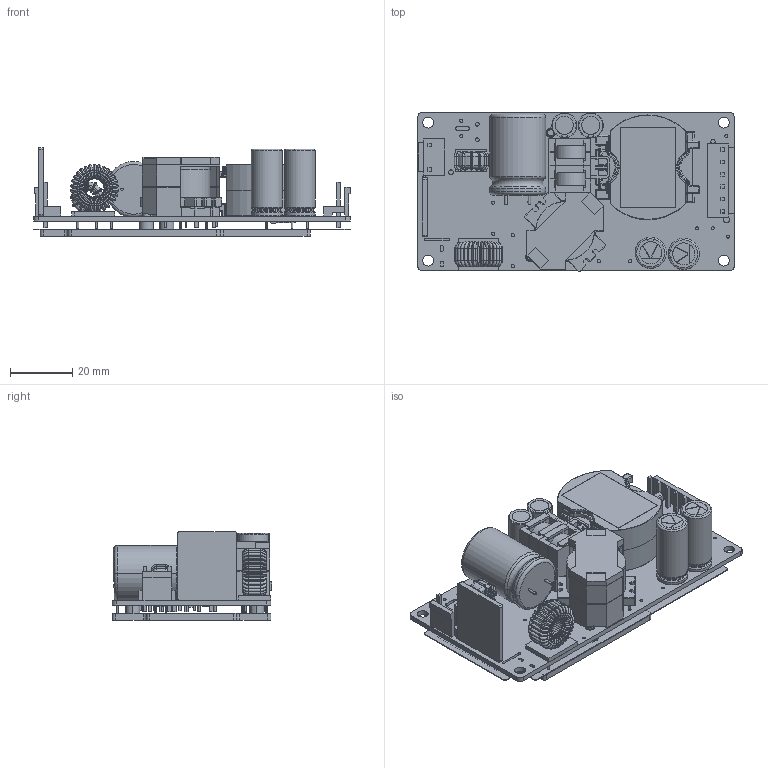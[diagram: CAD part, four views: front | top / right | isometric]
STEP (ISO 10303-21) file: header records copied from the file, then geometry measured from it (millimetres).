
FILE_DESCRIPTION((''),'2;1');
FILE_NAME('PJZ-56V300WBHBR0C0','2021-08-27T07:45:33',('Xinxin.Wang'),(''),'CREO PARAMETRIC BY PTC INC, 2019080','CREO PARAMETRIC BY PTC INC, 2019080','');
FILE_SCHEMA(('CONFIG_CONTROL_DESIGN','SHAPE_APPEARANCE_LAYERS_GROUPS'));
Products named in the file (89): BOARD; 0603R; R141; R140; R139; 0805R_1_2; R138; R137; R136; R135; F1; MLFV-MPS14018-A-01_1; MLFV-MPS14018-A-01_2; MLFV-MPS14018-A-01_3; MLFV-MPS14018-A-01_4; MLFV-MPS14018-A-01_5; MLFV-MPS14018-A-01_6; MLFV-MPS14018-A-01_7; MLFV-MPS14018-A-01_8; MLFV-MPS14018-A-01_9; MLFV-MPS14018-A-01_10; MLFV-MPS14018-A-01; FL1; OPEN_CASCADE_STEP_TRANSLA-30300_AF0; OPEN_CASCADE_STEP_TRANSLA-31453_AF1; OPEN_CASCADE_STEP_TRANSLA-31764_AF2; MCAL8P5AI_1_2_AF1; C26_AF1; MCEH-MPS14009-A-01_1_2_3_4_1; MCEH-MPS14009-A-01_1_2_3_4_2; MCEH-MPS14009-A-01_1_2_3_4_3_AF0; MCEH-MPS14009-A-01_1_2_3_4_4_AF1; MCEH-MPS14009-A-01_1_2_3_4_5_AF2; MCEH-MPS14009-A-01_1_2_3_4_AF0; L3_AF0; MRM10-25_2X28_7X08X4P-S0_1; MRM10-25_2X28_7X08X4P-S0_2; MRM10-25_2X28_7X08X4P-S0_3_AF0; MRM10-25_2X28_7X08X4P-S0_4; MRM10-25_2X28_7X08X4P-S0_5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
Assembly tree (95 placements, depth 5):
  PJZ-56V300WBHBR0C0
    PCB_AF0
      BOARD
      R141
        0603R
      R140
        0603R
      R139
        0603R
      R138
        0805R_1_2
      R137
        0603R
      R136
        0603R
      R135
        0603R
      F1
      FL1
        MLFV-MPS14018-A-01
          MLFV-MPS14018-A-01_1
          MLFV-MPS14018-A-01_2
          MLFV-MPS14018-A-01_3
          MLFV-MPS14018-A-01_4
          MLFV-MPS14018-A-01_5
          MLFV-MPS14018-A-01_6
          MLFV-MPS14018-A-01_7
          MLFV-MPS14018-A-01_8
          MLFV-MPS14018-A-01_9
          MLFV-MPS14018-A-01_10
      C26_AF1
        MCAL8P5AI_1_2_AF1
          OPEN_CASCADE_STEP_TRANSLA-30300_AF0
          OPEN_CASCADE_STEP_TRANSLA-31453_AF1
          OPEN_CASCADE_STEP_TRANSLA-31764_AF2
      L3_AF0
        MCEH-MPS14009-A-01_1_2_3_4_AF0
          MCEH-MPS14009-A-01_1_2_3_4_1
          MCEH-MPS14009-A-01_1_2_3_4_2
          MCEH-MPS14009-A-01_1_2_3_4_3_AF0
          MCEH-MPS14009-A-01_1_2_3_4_4_AF1
          MCEH-MPS14009-A-01_1_2_3_4_5_AF2
      L2_AF0
        MRM10-25_2X28_7X08X4P-S0_AF0
          MRM10-25_2X28_7X08X4P-S0_1
          MRM10-25_2X28_7X08X4P-S0_2
          MRM10-25_2X28_7X08X4P-S0_3_AF0
          MRM10-25_2X28_7X08X4P-S0_4
          MRM10-25_2X28_7X08X4P-S0_5
          MRM10-25_2X28_7X08X4P-S0_6
          MRM10-25_2X28_7X08X4P-S0_7
      C114_AF0
        MCAL10AI_1_2_AF0
          OPEN_CASCADE_STEP_TRANSLA-85748_AF0
          OPEN_CASCADE_STEP_TRANSLA-87188
          OPEN_CASCADE_STEP_TRANSLA-87295
      C111_AF0
        MCAL10AI_AF0
          OPEN_CASCADE_STEP_TRANSLA-79480_AF0
          OPEN_CASCADE_STEP_TRANSLA-80920
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Bounding box: 101.9 x 51.35 x 28.41 mm (x, y, z)
Volume: 49317.4 mm3; surface area: 59703.9 mm2
Topology: 70 solids, 75 shells, 2657 faces, 6694 edges, 4048 vertices
Faces by surface type: cylinder 1124, plane 881, torus 517, sphere 82, cone 49, bspline 4
Entity records: 97865 total; most frequent: CARTESIAN_POINT 17739, DIRECTION 14474, ORIENTED_EDGE 12432, EDGE_CURVE 6220, AXIS2_PLACEMENT_3D 5743, PRESENTATION_STYLE_ASSIGNMENT 4290, STYLED_ITEM 4097, VERTEX_POINT 3826
